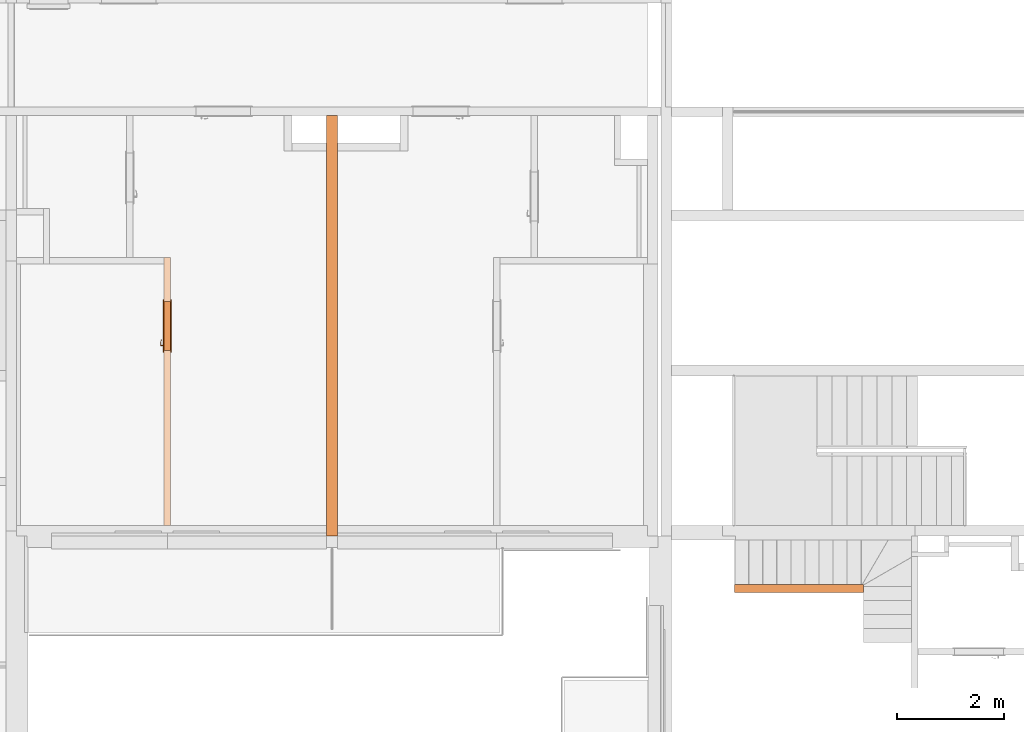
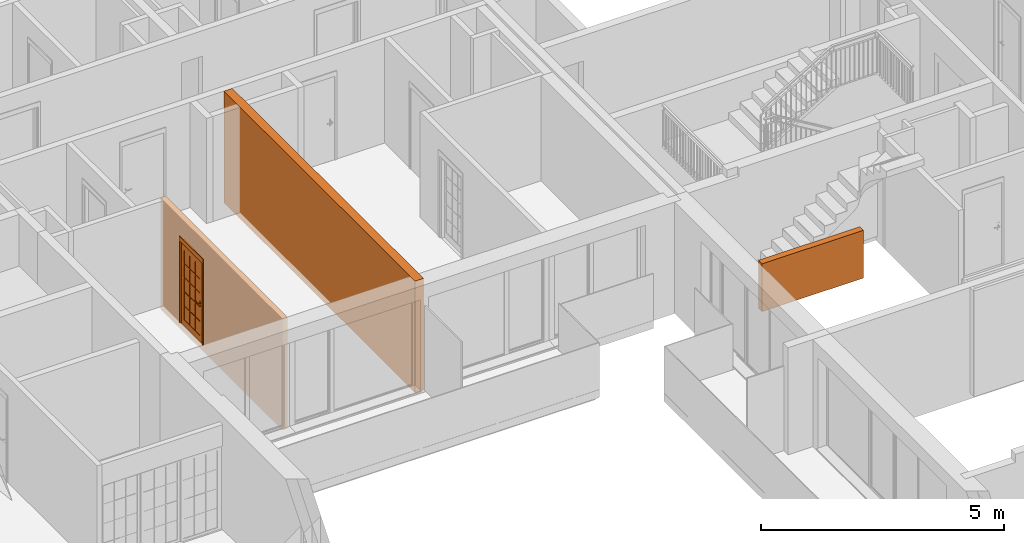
# One storey, part 53 of 61: 3 proxies, 1 opening, plus 1 element that does not belong to this part.
"""IFC2X3 building model written with IfcOpenShell, lengths in millimetres."""

from ifc_helpers import new_model, entity, si_unit, converted_unit, derived_unit, money_unit, direction, frame, origin_with_axes, origin_2d_with_axis, place, context, subcontext, project, spatial, rectangle, extrude, open_shell, faceted_brep, surface_model, material, type_object, element, fill, save


model = new_model("IFC2X3")

# Units and contexts
model_context = context("Model", 3, precision=0.01, world=origin_with_axes(), true_north=direction((0.34421633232, 0.938890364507)))
body_context = subcontext(model_context, "Body", "Model", "MODEL_VIEW")
ifc_project = project(units=[si_unit("LENGTHUNIT", "METRE", prefix="MILLI"), si_unit("AREAUNIT", "SQUARE_METRE"), si_unit("VOLUMEUNIT", "CUBIC_METRE"), converted_unit("PLANEANGLEUNIT", "DEGREE", entity("IfcPlaneAngleMeasure", 0.0174532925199), si_unit("PLANEANGLEUNIT", "RADIAN"), dimensions=[0, 0, 0, 0, 0, 0, 0]), si_unit("SOLIDANGLEUNIT", "STERADIAN"), money_unit("USD"), converted_unit("TIMEUNIT", "Year", entity("IfcTimeMeasure", 31556926.0), si_unit("TIMEUNIT", "SECOND"), dimensions=[0, 0, 1, 0, 0, 0, 0]), si_unit("MASSUNIT", "GRAM", prefix="KILO"), si_unit("THERMODYNAMICTEMPERATUREUNIT", "DEGREE_CELSIUS"), si_unit("LUMINOUSINTENSITYUNIT", "LUMEN"), si_unit("ENERGYUNIT", "JOULE", prefix="MEGA"), derived_unit("THERMALCONDUCTANCEUNIT", [(si_unit("POWERUNIT", "WATT"), 1), (si_unit("LENGTHUNIT", "METRE"), -1), (si_unit("THERMODYNAMICTEMPERATUREUNIT", "KELVIN"), -1)]), derived_unit("SPECIFICHEATCAPACITYUNIT", [(si_unit("ENERGYUNIT", "JOULE"), 1), (si_unit("MASSUNIT", "GRAM", prefix="KILO"), -1), (si_unit("THERMODYNAMICTEMPERATUREUNIT", "KELVIN"), -1)]), derived_unit("MASSDENSITYUNIT", [(si_unit("MASSUNIT", "GRAM", prefix="KILO"), 1), (si_unit("VOLUMEUNIT", "CUBIC_METRE"), -1)])], contexts=[model_context])

# Site, building, storey
site_placement = place(None, origin_with_axes())
site = spatial("IfcSite", under=ifc_project, at=site_placement, Name="USTRONIE MORSKIE", CompositionType="ELEMENT")
building_placement = place(site_placement, origin_with_axes())
building = spatial("IfcBuilding", under=site, at=building_placement, Name="Budynek", CompositionType="ELEMENT")
storey_placement = place(building_placement, frame((0.0, 0.0, 13000.0), z_axis=(0.0, 0.0, 1.0), x_axis=(1.0, 0.0, 0.0)))
storey = spatial("IfcBuildingStorey", under=building, at=storey_placement, Name="PIĘTRO 4", CompositionType="ELEMENT", Elevation=13000.0)

# Proxies, opening
ifc_material_1 = material(Name="Bloczki silikatowe")
building_element_proxy_type_1 = type_object("IfcBuildingElementProxyType", Name="Bloczki silikatowe 120", PredefinedType="NOTDEFINED")
proxy_1_placement = place(storey_placement, frame((399237.940269, 731951.199132, -160.0), z_axis=(0.0, 0.0, 1.0), x_axis=(0.0, -1.0, 0.0)))
proxy_1 = element("IfcBuildingElementProxy", 1, at=proxy_1_placement, inside=storey, type_object=building_element_proxy_type_1, material=ifc_material_1, Name="SW-04", context=body_context, shape_type="Brep", body=[
    faceted_brep([(4950.00009633, 60.0, 0.0), (4950.00009633, -60.0, 0.0), (-59.9999999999, -60.0, 0.0), (-59.9999999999, 60.0, 0.0), (4950.00009633, 60.0, 2800.0), (4950.00009633, -60.0, 2800.0), (-59.9999999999, -60.0, 2800.0), (-59.9999999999, 60.0, 2800.0)], [[[0, 1, 2, 3]], [[1, 0, 4, 5]], [[1, 5, 6, 2]], [[7, 3, 2, 6]], [[4, 0, 3, 7]], [[5, 4, 7, 6]]]),
])
opening_placement = place(proxy_1_placement, frame((1220.00038806, 0.0, 160.0), z_axis=(0.0, 0.0, 1.0), x_axis=(1.0, 0.0, 0.0)))
opening = element("IfcOpeningElement", 2, at=opening_placement, cuts=proxy_1, Name="Dw.03", context=body_context, shape_type="SweptSolid", body=[
    extrude(rectangle(XDim=920.0, YDim=2070.0, at=origin_2d_with_axis()), frame((0.0, -120.0, 1035.0), z_axis=(0.0, 1.0, 0.0), x_axis=(-1.0, 0.0, 0.0)), (0.0, 0.0, 1.0), 360.0),
    extrude(rectangle(XDim=994.0, YDim=2177.0, at=origin_2d_with_axis()), frame((0.0, -60.0, 1088.5), z_axis=(0.0, 1.0, 0.0), x_axis=(-1.0, 0.0, 0.0)), (0.0, 0.0, -1.0), 120.0),
    extrude(rectangle(XDim=994.0, YDim=2177.0, at=origin_2d_with_axis()), frame((0.0, 60.0, 1088.5), z_axis=(0.0, -1.0, 0.0), x_axis=(-1.0, 0.0, 0.0)), (0.0, 0.0, -1.0), 120.0),
])
building_element_proxy_type_2 = type_object("IfcBuildingElementProxyType", Name="Drzwi 23", PredefinedType="NOTDEFINED")
proxy_2_placement = place(opening_placement, frame((400.0, 0.0, 0.0), z_axis=(0.0, 0.0, 1.0), x_axis=(-1.0, 0.0, 0.0)))
proxy_2 = element("IfcBuildingElementProxy", 3, at=proxy_2_placement, inside=storey, type_object=building_element_proxy_type_2, Name="Dw.03", context=body_context, shape_type="SurfaceModel", body=[
    faceted_brep([(-60.0000000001, 55.0, 0.0), (-60.0000000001, 60.0, 0.0), (-35.0, 60.0, 0.0), (-35.0, 55.0, 0.0), (-60.0000000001, 55.0, 2070.0), (-60.0000000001, 60.0, 2070.0), (-35.0, 60.0, 2045.0), (-35.0, 55.0, 2045.0)], [[[0, 1, 2, 3]], [[4, 5, 1, 0]], [[1, 5, 6, 2]], [[3, 2, 6, 7]], [[0, 3, 7, 4]], [[7, 6, 5, 4]]]),
    faceted_brep([(860.0, 55.0, 2070.0), (860.0, 60.0, 2070.0), (835.0, 60.0, 2045.0), (835.0, 55.0, 2045.0), (860.0, 55.0, 0.0), (860.0, 60.0, 0.0), (835.0, 60.0, 0.0), (835.0, 55.0, 0.0)], [[[0, 1, 2, 3]], [[4, 5, 1, 0]], [[1, 5, 6, 2]], [[3, 2, 6, 7]], [[0, 3, 7, 4]], [[7, 6, 5, 4]]]),
    faceted_brep([(-35.0, 55.0, 2045.0), (-35.0, 60.0, 2045.0), (835.0, 60.0, 2045.0), (835.0, 55.0, 2045.0), (-60.0000000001, 55.0, 2070.0), (-60.0000000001, 60.0, 2070.0), (860.0, 60.0, 2070.0), (860.0, 55.0, 2070.0)], [[[0, 1, 2, 3]], [[4, 5, 1, 0]], [[1, 5, 6, 2]], [[3, 2, 6, 7]], [[0, 3, 7, 4]], [[7, 6, 5, 4]]]),
    faceted_brep([(-97.0, 79.0, 0.0), (-47.0, 79.0, 0.0), (-47.0, 60.0, 0.0), (-97.0, 60.0, 0.0), (-97.0, 79.0, 2177.0), (-47.0, 79.0, 2057.0), (-47.0, 60.0, 2057.0), (-97.0, 60.0, 2177.0)], [[[0, 1, 2, 3]], [[0, 4, 5, 1]], [[1, 5, 6, 2]], [[3, 2, 6, 7]], [[4, 0, 3, 7]], [[5, 4, 7, 6]]]),
    faceted_brep([(897.0, 79.0, 2177.0), (847.0, 79.0, 2057.0), (847.0, 60.0, 2057.0), (897.0, 60.0, 2177.0), (897.0, 79.0, 0.0), (847.0, 79.0, 0.0), (847.0, 60.0, 0.0), (897.0, 60.0, 0.0)], [[[0, 1, 2, 3]], [[0, 4, 5, 1]], [[1, 5, 6, 2]], [[3, 2, 6, 7]], [[4, 0, 3, 7]], [[5, 4, 7, 6]]]),
    faceted_brep([(-97.0, 79.0, 2177.0), (-47.0, 79.0, 2057.0), (-47.0, 60.0, 2057.0), (-97.0, 60.0, 2177.0), (897.0, 79.0, 2177.0), (847.0, 79.0, 2057.0), (847.0, 60.0, 2057.0), (897.0, 60.0, 2177.0)], [[[0, 1, 2, 3]], [[0, 4, 5, 1]], [[1, 5, 6, 2]], [[3, 2, 6, 7]], [[4, 0, 3, 7]], [[5, 4, 7, 6]]]),
    faceted_brep([(-97.0, -79.0, 0.0), (-97.0, -60.0, 0.0), (-47.0, -60.0, 0.0), (-47.0, -79.0, 0.0), (-97.0, -79.0, 2177.0), (-97.0, -60.0, 2177.0), (-47.0, -60.0, 2057.0), (-47.0, -79.0, 2057.0)], [[[0, 1, 2, 3]], [[4, 5, 1, 0]], [[1, 5, 6, 2]], [[3, 2, 6, 7]], [[0, 3, 7, 4]], [[7, 6, 5, 4]]]),
    faceted_brep([(897.0, -79.0, 2177.0), (897.0, -60.0, 2177.0), (847.0, -60.0, 2057.0), (847.0, -79.0, 2057.0), (897.0, -79.0, 0.0), (897.0, -60.0, 0.0), (847.0, -60.0, 0.0), (847.0, -79.0, 0.0)], [[[0, 1, 2, 3]], [[4, 5, 1, 0]], [[1, 5, 6, 2]], [[3, 2, 6, 7]], [[0, 3, 7, 4]], [[7, 6, 5, 4]]]),
    faceted_brep([(-97.0, -79.0, 2177.0), (-97.0, -60.0, 2177.0), (-47.0, -60.0, 2057.0), (-47.0, -79.0, 2057.0), (897.0, -79.0, 2177.0), (897.0, -60.0, 2177.0), (847.0, -60.0, 2057.0), (847.0, -79.0, 2057.0)], [[[0, 1, 2, 3]], [[4, 5, 1, 0]], [[1, 5, 6, 2]], [[3, 2, 6, 7]], [[0, 3, 7, 4]], [[7, 6, 5, 4]]]),
    faceted_brep([(0.0, 15.0, 0.0), (0.0, 15.0, 2000.0), (0.0, -60.0, 2000.0), (0.0, -60.0, 0.0), (-12.0000000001, 15.0, 2000.0), (-12.0000000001, 15.0, 0.0), (-12.0000000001, 55.0, 2000.0), (-60.0000000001, 55.0, 2000.0), (-60.0000000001, -60.0, 2000.0), (-60.0000000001, -60.0, 0.0), (-60.0000000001, 55.0, 0.0), (-12.0000000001, 55.0, 0.0)], [[[0, 1, 2, 3]], [[4, 1, 0, 5]], [[4, 6, 7, 8, 2, 1]], [[3, 2, 8, 9]], [[5, 0, 3, 9, 10, 11]], [[6, 4, 5, 11]], [[6, 11, 10, 7]], [[10, 9, 8, 7]]]),
    faceted_brep([(812.0, 15.0, 2000.0), (800.0, 15.0, 2000.0), (800.0, -60.0, 2000.0), (860.0, -60.0, 2000.0), (860.0, 55.0, 2000.0), (812.0, 55.0, 2000.0), (812.0, 15.0, 0.0), (800.0, 15.0, 0.0), (800.0, -60.0, 0.0), (860.0, -60.0, 0.0), (860.0, 55.0, 0.0), (812.0, 55.0, 0.0)], [[[0, 1, 2, 3, 4, 5]], [[1, 0, 6, 7]], [[1, 7, 8, 2]], [[3, 2, 8, 9]], [[4, 3, 9, 10]], [[11, 5, 4, 10]], [[0, 5, 11, 6]], [[6, 11, 10, 9, 8, 7]]]),
    faceted_brep([(-12.0000000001, 55.0, 2012.0), (-12.0000000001, 55.0, 2000.0), (-60.0000000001, 55.0, 2000.0), (-60.0000000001, 55.0, 2070.0), (860.0, 55.0, 2070.0), (860.0, 55.0, 2000.0), (812.0, 55.0, 2000.0), (812.0, 55.0, 2012.0), (-12.0000000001, 15.0, 2012.0), (-12.0000000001, 15.0, 2000.0), (0.0, 15.0, 2000.0), (0.0, -60.0, 2000.0), (-60.0000000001, -60.0, 2000.0), (-60.0000000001, -60.0, 2070.0), (860.0, -60.0, 2070.0), (860.0, -60.0, 2000.0), (812.0, 15.0, 2000.0), (800.0, -60.0, 2000.0), (800.0, 15.0, 2000.0), (812.0, 15.0, 2012.0)], [[[0, 1, 2, 3, 4, 5, 6, 7]], [[1, 0, 8, 9]], [[9, 10, 11, 12, 2, 1]], [[2, 12, 13, 3]], [[3, 13, 14, 4]], [[4, 14, 15, 5]], [[16, 6, 5, 15, 17, 18]], [[7, 6, 16, 19]], [[0, 7, 19, 8]], [[16, 18, 10, 9, 8, 19]], [[10, 18, 17, 11]], [[17, 15, 14, 13, 12, 11]]]),
    faceted_brep([(9.5, 15.0, 1060.0), (9.5, 12.0, 1060.0), (66.5, 12.0, 1060.0), (66.5, 15.0, 1060.0), (9.5, 15.0, 870.0), (9.5, 12.0, 870.0), (66.5, 12.0, 870.0), (66.5, 15.0, 870.0)], [[[0, 1, 2, 3]], [[4, 5, 1, 0]], [[1, 5, 6, 2]], [[3, 2, 6, 7]], [[0, 3, 7, 4]], [[7, 6, 5, 4]]]),
    faceted_brep([(38.0, -49.0, 990.0), (38.0, -56.0, 990.0), (33.0, -56.0, 991.339745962), (33.0, -49.0, 991.339745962), (63.0, -49.0, 990.0), (63.0, -56.0, 990.0), (63.0, -56.0, 1010.0), (38.0, -56.0, 1010.0), (33.0, -56.0, 1008.66025404), (29.3397459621, -56.0, 1005.0), (28.0, -56.0, 1000.0), (29.3397459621, -56.0, 995.0), (29.3397459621, -49.0, 995.0), (28.0, -49.0, 1000.0), (29.3397459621, -49.0, 1005.0), (33.0, -49.0, 1008.66025404), (38.0, -49.0, 1010.0), (63.0, -49.0, 1010.0)], [[[0, 1, 2, 3]], [[4, 5, 1, 0]], [[1, 5, 6, 7, 8, 9, 10, 11, 2]], [[3, 2, 11, 12]], [[0, 3, 12, 13, 14, 15, 16, 17, 4]], [[17, 6, 5, 4]], [[16, 7, 6, 17]], [[15, 8, 7, 16]], [[14, 9, 8, 15]], [[13, 10, 9, 14]], [[12, 11, 10, 13]]]),
    surface_model("IfcShellBasedSurfaceModel", [(63.0, -49.0, 1010.0), (76.4039094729, -56.0, 1009.60730092), (76.0982828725, -49.0, 1009.60730092), (63.0, -56.0, 1010.0), (103.109716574, -53.6635446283, 1008.82190275), (76.0982828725, -49.0, 990.392699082), (63.0, -49.0, 990.0), (63.0, -56.0, 990.0), (76.4039094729, -56.0, 990.392699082), (103.109716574, -53.6635446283, 991.178097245), (102.195162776, -46.716818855, 1008.82190275), (102.195162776, -46.716818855, 991.178097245), (129.510264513, -49.0084157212, 991.963495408), (129.510264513, -49.0084157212, 1008.03650459), (127.993743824, -42.1678329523, 1008.03650459), (127.993743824, -42.1678329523, 991.963495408), (155.40462918, -42.0700416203, 992.748893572), (155.40462918, -42.0700416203, 1007.25110643), (153.297683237, -35.3876628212, 1007.25110643), (153.297683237, -35.3876628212, 992.748893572), (163.461204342, -39.1376880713, 993.0), (163.461204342, -39.1376880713, 1007.0), (161.170557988, -32.5221707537, 1007.0), (161.170557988, -32.5221707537, 993.0)], [open_shell([[[0, 1, 2]], [[0, 3, 1]], [[2, 1, 4]], [[0, 2, 5, 6]], [[3, 7, 8, 1]], [[1, 8, 9, 4]], [[2, 4, 10]], [[2, 10, 11, 5]], [[5, 7, 6]], [[5, 8, 7]], [[11, 9, 8]], [[4, 9, 12, 13]], [[10, 4, 13]], [[10, 14, 15, 11]], [[11, 8, 5]], [[15, 9, 11]], [[15, 12, 9]], [[13, 12, 16, 17]], [[10, 13, 14]], [[14, 18, 19, 15]], [[19, 12, 15]], [[19, 16, 12]], [[17, 16, 20, 21]], [[14, 13, 17]], [[14, 17, 18]], [[18, 22, 23, 19]], [[23, 16, 19]], [[23, 20, 16]], [[22, 21, 20, 23]], [[18, 17, 21]], [[18, 21, 22]]])]),
    faceted_brep([(48.3923048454, 2.00000000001, 994.0), (49.2583302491, 12.0, 993.5), (50.9999999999, 12.0, 1000.0), (50.0, 2.00000000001, 1000.0), (44.0, 2.00000000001, 989.607695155), (44.5, 12.0, 988.741669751), (38.0, 12.0, 987.0), (31.4999999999, 12.0, 988.741669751), (26.7416697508, 12.0, 993.5), (25.0, 12.0, 1000.0), (26.7416697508, 12.0, 1006.5), (31.4999999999, 12.0, 1011.25833025), (38.0, 12.0, 1013.0), (44.5, 12.0, 1011.25833025), (49.2583302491, 12.0, 1006.5), (48.3923048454, 2.00000000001, 1006.0), (44.0, 2.00000000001, 1010.39230485), (38.0, 2.00000000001, 1012.0), (31.9999999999, 2.00000000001, 1010.39230485), (27.6076951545, 2.00000000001, 1006.0), (26.0, 2.00000000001, 1000.0), (27.6076951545, 2.00000000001, 994.0), (31.9999999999, 2.00000000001, 989.607695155), (38.0, 2.00000000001, 988.0)], [[[0, 1, 2, 3]], [[4, 5, 1, 0]], [[2, 1, 5, 6, 7, 8, 9, 10, 11, 12, 13, 14]], [[3, 2, 14, 15]], [[3, 15, 16, 17, 18, 19, 20, 21, 22, 23, 4, 0]], [[23, 6, 5, 4]], [[22, 7, 6, 23]], [[21, 8, 7, 22]], [[20, 9, 8, 21]], [[19, 10, 9, 20]], [[18, 11, 10, 19]], [[17, 12, 11, 18]], [[16, 13, 12, 17]], [[15, 14, 13, 16]]]),
    faceted_brep([(55.3205080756, 7.99999999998, 895.0), (57.0525588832, 12.0, 894.0), (59.9999999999, 12.0, 905.0), (58.0, 7.99999999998, 905.0), (48.0, 7.99999999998, 887.679491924), (49.0, 12.0, 885.947441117), (38.0, 12.0, 883.0), (26.9999999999, 12.0, 885.947441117), (18.9474411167, 12.0, 894.0), (16.0, 12.0, 905.0), (18.9474411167, 12.0, 916.0), (26.9999999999, 12.0, 924.052558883), (38.0, 12.0, 927.0), (49.0, 12.0, 924.052558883), (57.0525588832, 12.0, 916.0), (55.3205080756, 7.99999999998, 915.0), (48.0, 7.99999999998, 922.320508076), (38.0, 7.99999999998, 925.0), (28.0, 7.99999999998, 922.320508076), (20.6794919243, 7.99999999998, 915.0), (18.0, 7.99999999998, 905.0), (20.6794919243, 7.99999999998, 895.0), (28.0, 7.99999999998, 887.679491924), (38.0, 7.99999999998, 885.0)], [[[0, 1, 2, 3]], [[4, 5, 1, 0]], [[2, 1, 5, 6, 7, 8, 9, 10, 11, 12, 13, 14]], [[3, 2, 14, 15]], [[3, 15, 16, 17, 18, 19, 20, 21, 22, 23, 4, 0]], [[23, 6, 5, 4]], [[22, 7, 6, 23]], [[21, 8, 7, 22]], [[20, 9, 8, 21]], [[19, 10, 9, 20]], [[18, 11, 10, 19]], [[17, 12, 11, 18]], [[16, 13, 12, 17]], [[15, 14, 13, 16]]]),
    faceted_brep([(42.9497474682, 6.00000000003, 909.050252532), (43.6568542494, 7.99999999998, 908.343145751), (45.9999999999, 7.99999999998, 914.0), (45.0, 6.00000000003, 914.0), (38.0, 6.00000000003, 907.0), (38.0, 7.99999999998, 906.0), (32.3431457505, 7.99999999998, 908.343145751), (30.0, 7.99999999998, 914.0), (32.3431457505, 7.99999999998, 919.656854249), (38.0, 7.99999999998, 922.0), (43.6568542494, 7.99999999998, 919.656854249), (42.9497474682, 6.00000000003, 918.949747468), (38.0, 6.00000000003, 921.0), (33.0502525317, 6.00000000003, 918.949747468), (30.9999999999, 6.00000000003, 914.0), (33.0502525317, 6.00000000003, 909.050252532)], [[[0, 1, 2, 3]], [[4, 5, 1, 0]], [[2, 1, 5, 6, 7, 8, 9, 10]], [[3, 2, 10, 11]], [[3, 11, 12, 13, 14, 15, 4, 0]], [[15, 6, 5, 4]], [[14, 7, 6, 15]], [[13, 8, 7, 14]], [[12, 9, 8, 13]], [[11, 10, 9, 12]]]),
    faceted_brep([(38.0, 2.00000000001, 1010.0), (38.0, -49.0, 1010.0), (43.0, -49.0, 1008.66025404), (43.0, 2.00000000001, 1008.66025404), (33.0, 2.00000000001, 1008.66025404), (33.0, -49.0, 1008.66025404), (29.3397459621, -49.0, 1005.0), (28.0, -49.0, 1000.0), (29.3397459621, -49.0, 995.0), (33.0, -49.0, 991.339745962), (38.0, -49.0, 990.0), (43.0, -49.0, 991.339745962), (46.6602540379, -49.0, 995.0), (48.0, -49.0, 1000.0), (46.6602540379, -49.0, 1005.0), (46.6602540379, 2.00000000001, 1005.0), (48.0, 2.00000000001, 1000.0), (46.6602540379, 2.00000000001, 995.0), (43.0, 2.00000000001, 991.339745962), (38.0, 2.00000000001, 990.0), (33.0, 2.00000000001, 991.339745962), (29.3397459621, 2.00000000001, 995.0), (28.0, 2.00000000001, 1000.0), (29.3397459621, 2.00000000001, 1005.0)], [[[0, 1, 2, 3]], [[4, 5, 1, 0]], [[1, 5, 6, 7, 8, 9, 10, 11, 12, 13, 14, 2]], [[3, 2, 14, 15]], [[0, 3, 15, 16, 17, 18, 19, 20, 21, 22, 23, 4]], [[23, 6, 5, 4]], [[22, 7, 6, 23]], [[21, 8, 7, 22]], [[20, 9, 8, 21]], [[19, 10, 9, 20]], [[18, 11, 10, 19]], [[17, 12, 11, 18]], [[16, 13, 12, 17]], [[15, 14, 13, 16]]]),
    faceted_brep([(9.5, 55.0, 1060.0), (66.5, 55.0, 1060.0), (66.5, 58.0, 1060.0), (9.5, 58.0, 1060.0), (9.5, 55.0, 870.0), (66.5, 55.0, 870.0), (66.5, 58.0, 870.0), (9.5, 58.0, 870.0)], [[[0, 1, 2, 3]], [[0, 4, 5, 1]], [[1, 5, 6, 2]], [[3, 2, 6, 7]], [[4, 0, 3, 7]], [[5, 4, 7, 6]]]),
    faceted_brep([(38.0, 119.0, 990.0), (33.0, 119.0, 991.339745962), (33.0, 126.0, 991.339745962), (38.0, 126.0, 990.0), (63.0, 119.0, 990.0), (63.0, 119.0, 1010.0), (38.0, 119.0, 1010.0), (33.0, 119.0, 1008.66025404), (29.3397459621, 119.0, 1005.0), (28.0, 119.0, 1000.0), (29.3397459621, 119.0, 995.0), (29.3397459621, 126.0, 995.0), (28.0, 126.0, 1000.0), (29.3397459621, 126.0, 1005.0), (33.0, 126.0, 1008.66025404), (38.0, 126.0, 1010.0), (63.0, 126.0, 1010.0), (63.0, 126.0, 990.0)], [[[0, 1, 2, 3]], [[0, 4, 5, 6, 7, 8, 9, 10, 1]], [[1, 10, 11, 2]], [[3, 2, 11, 12, 13, 14, 15, 16, 17]], [[4, 0, 3, 17]], [[5, 4, 17, 16]], [[6, 5, 16, 15]], [[7, 6, 15, 14]], [[8, 7, 14, 13]], [[9, 8, 13, 12]], [[10, 9, 12, 11]]]),
    surface_model("IfcShellBasedSurfaceModel", [(63.0, 119.0, 1010.0), (76.0982828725, 119.0, 1009.60730092), (76.4039094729, 126.0, 1009.60730092), (63.0, 119.0, 990.0), (76.0982828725, 119.0, 990.392699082), (103.109716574, 123.663544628, 1008.82190275), (63.0, 126.0, 1010.0), (63.0, 126.0, 990.0), (102.195162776, 116.716818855, 991.178097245), (102.195162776, 116.716818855, 1008.82190275), (103.109716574, 123.663544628, 991.178097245), (76.4039094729, 126.0, 990.392699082), (127.993743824, 112.167832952, 991.963495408), (127.993743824, 112.167832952, 1008.03650459), (129.510264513, 119.008415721, 1008.03650459), (129.510264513, 119.008415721, 991.963495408), (153.297683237, 105.387662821, 992.748893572), (153.297683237, 105.387662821, 1007.25110643), (155.40462918, 112.07004162, 1007.25110643), (155.40462918, 112.07004162, 992.748893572), (161.170557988, 102.522170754, 993.0), (161.170557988, 102.522170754, 1007.0), (163.461204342, 109.137688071, 1007.0), (163.461204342, 109.137688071, 993.0)], [open_shell([[[0, 1, 2]], [[0, 3, 4, 1]], [[1, 5, 2]], [[0, 2, 6]], [[4, 3, 7]], [[1, 4, 8, 9]], [[1, 9, 5]], [[2, 5, 10, 11]], [[6, 2, 11, 7]], [[4, 7, 11]], [[8, 4, 11]], [[9, 8, 12, 13]], [[9, 14, 5]], [[5, 14, 15, 10]], [[8, 11, 10]], [[12, 8, 10]], [[13, 12, 16, 17]], [[9, 13, 14]], [[14, 18, 19, 15]], [[12, 10, 15]], [[16, 12, 15]], [[17, 16, 20, 21]], [[13, 17, 18]], [[13, 18, 14]], [[18, 22, 23, 19]], [[16, 15, 19]], [[20, 16, 19]], [[21, 20, 23, 22]], [[17, 21, 22]], [[17, 22, 18]], [[20, 19, 23]]])]),
    faceted_brep([(48.3923048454, 68.0, 994.0), (50.0, 68.0, 1000.0), (50.9999999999, 58.0, 1000.0), (49.2583302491, 58.0, 993.5), (44.0, 68.0, 989.607695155), (38.0, 68.0, 988.0), (31.9999999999, 68.0, 989.607695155), (27.6076951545, 68.0, 994.0), (26.0, 68.0, 1000.0), (27.6076951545, 68.0, 1006.0), (31.9999999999, 68.0, 1010.39230485), (38.0, 68.0, 1012.0), (44.0, 68.0, 1010.39230485), (48.3923048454, 68.0, 1006.0), (49.2583302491, 58.0, 1006.5), (44.5, 58.0, 1011.25833025), (38.0, 58.0, 1013.0), (31.4999999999, 58.0, 1011.25833025), (26.7416697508, 58.0, 1006.5), (25.0, 58.0, 1000.0), (26.7416697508, 58.0, 993.5), (31.4999999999, 58.0, 988.741669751), (38.0, 58.0, 987.0), (44.5, 58.0, 988.741669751)], [[[0, 1, 2, 3]], [[1, 0, 4, 5, 6, 7, 8, 9, 10, 11, 12, 13]], [[1, 13, 14, 2]], [[2, 14, 15, 16, 17, 18, 19, 20, 21, 22, 23, 3]], [[4, 0, 3, 23]], [[5, 4, 23, 22]], [[6, 5, 22, 21]], [[7, 6, 21, 20]], [[8, 7, 20, 19]], [[9, 8, 19, 18]], [[10, 9, 18, 17]], [[11, 10, 17, 16]], [[12, 11, 16, 15]], [[13, 12, 15, 14]]]),
    faceted_brep([(55.3205080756, 62.0, 895.0), (58.0, 62.0, 905.0), (59.9999999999, 58.0, 905.0), (57.0525588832, 58.0, 894.0), (48.0, 62.0, 887.679491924), (38.0, 62.0, 885.0), (28.0, 62.0, 887.679491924), (20.6794919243, 62.0, 895.0), (18.0, 62.0, 905.0), (20.6794919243, 62.0, 915.0), (28.0, 62.0, 922.320508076), (38.0, 62.0, 925.0), (48.0, 62.0, 922.320508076), (55.3205080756, 62.0, 915.0), (57.0525588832, 58.0, 916.0), (49.0, 58.0, 924.052558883), (38.0, 58.0, 927.0), (26.9999999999, 58.0, 924.052558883), (18.9474411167, 58.0, 916.0), (16.0, 58.0, 905.0), (18.9474411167, 58.0, 894.0), (26.9999999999, 58.0, 885.947441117), (38.0, 58.0, 883.0), (49.0, 58.0, 885.947441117)], [[[0, 1, 2, 3]], [[1, 0, 4, 5, 6, 7, 8, 9, 10, 11, 12, 13]], [[1, 13, 14, 2]], [[2, 14, 15, 16, 17, 18, 19, 20, 21, 22, 23, 3]], [[4, 0, 3, 23]], [[5, 4, 23, 22]], [[6, 5, 22, 21]], [[7, 6, 21, 20]], [[8, 7, 20, 19]], [[9, 8, 19, 18]], [[10, 9, 18, 17]], [[11, 10, 17, 16]], [[12, 11, 16, 15]], [[13, 12, 15, 14]]]),
    faceted_brep([(42.9497474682, 64.0, 909.050252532), (45.0, 64.0, 914.0), (45.9999999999, 62.0, 914.0), (43.6568542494, 62.0, 908.343145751), (38.0, 64.0, 907.0), (33.0502525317, 64.0, 909.050252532), (30.9999999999, 64.0, 914.0), (33.0502525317, 64.0, 918.949747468), (38.0, 64.0, 921.0), (42.9497474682, 64.0, 918.949747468), (43.6568542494, 62.0, 919.656854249), (38.0, 62.0, 922.0), (32.3431457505, 62.0, 919.656854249), (30.0, 62.0, 914.0), (32.3431457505, 62.0, 908.343145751), (38.0, 62.0, 906.0)], [[[0, 1, 2, 3]], [[1, 0, 4, 5, 6, 7, 8, 9]], [[1, 9, 10, 2]], [[2, 10, 11, 12, 13, 14, 15, 3]], [[4, 0, 3, 15]], [[5, 4, 15, 14]], [[6, 5, 14, 13]], [[7, 6, 13, 12]], [[8, 7, 12, 11]], [[9, 8, 11, 10]]]),
    faceted_brep([(38.0, 68.0, 1010.0), (43.0, 68.0, 1008.66025404), (43.0, 119.0, 1008.66025404), (38.0, 119.0, 1010.0), (33.0, 68.0, 1008.66025404), (29.3397459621, 68.0, 1005.0), (28.0, 68.0, 1000.0), (29.3397459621, 68.0, 995.0), (33.0, 68.0, 991.339745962), (38.0, 68.0, 990.0), (43.0, 68.0, 991.339745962), (46.6602540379, 68.0, 995.0), (48.0, 68.0, 1000.0), (46.6602540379, 68.0, 1005.0), (46.6602540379, 119.0, 1005.0), (48.0, 119.0, 1000.0), (46.6602540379, 119.0, 995.0), (43.0, 119.0, 991.339745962), (38.0, 119.0, 990.0), (33.0, 119.0, 991.339745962), (29.3397459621, 119.0, 995.0), (28.0, 119.0, 1000.0), (29.3397459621, 119.0, 1005.0), (33.0, 119.0, 1008.66025404)], [[[0, 1, 2, 3]], [[0, 4, 5, 6, 7, 8, 9, 10, 11, 12, 13, 1]], [[1, 13, 14, 2]], [[3, 2, 14, 15, 16, 17, 18, 19, 20, 21, 22, 23]], [[4, 0, 3, 23]], [[5, 4, 23, 22]], [[6, 5, 22, 21]], [[7, 6, 21, 20]], [[8, 7, 20, 19]], [[9, 8, 19, 18]], [[10, 9, 18, 17]], [[11, 10, 17, 16]], [[12, 11, 16, 15]], [[13, 12, 15, 14]]]),
    faceted_brep([(812.0, 55.0, 0.0), (812.0, 15.0, 0.0), (732.0, 15.0, 150.0), (732.0, 55.0, 150.0), (812.0, 55.0, 2012.0), (812.0, 15.0, 2012.0), (732.0, 15.0, 1902.0), (732.0, 55.0, 1902.0)], [[[0, 1, 2, 3]], [[4, 5, 1, 0]], [[1, 5, 6, 2]], [[3, 2, 6, 7]], [[0, 3, 7, 4]], [[7, 6, 5, 4]]]),
    faceted_brep([(-12.0000000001, 55.0, 0.0), (-12.0000000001, 15.0, 0.0), (-12.0000000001, 15.0, 2012.0), (-12.0000000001, 55.0, 2012.0), (68.0, 55.0, 150.0), (68.0, 15.0, 150.0), (68.0, 15.0, 1902.0), (68.0, 55.0, 1902.0)], [[[0, 1, 2, 3]], [[4, 5, 1, 0]], [[1, 5, 6, 2]], [[3, 2, 6, 7]], [[0, 3, 7, 4]], [[7, 6, 5, 4]]]),
    faceted_brep([(812.0, 55.0, 0.0), (812.0, 15.0, 0.0), (-12.0000000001, 15.0, 0.0), (-12.0000000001, 55.0, 0.0), (732.0, 55.0, 150.0), (732.0, 15.0, 150.0), (68.0, 15.0, 150.0), (68.0, 55.0, 150.0)], [[[0, 1, 2, 3]], [[4, 5, 1, 0]], [[1, 5, 6, 2]], [[3, 2, 6, 7]], [[0, 3, 7, 4]], [[7, 6, 5, 4]]]),
    faceted_brep([(812.0, 55.0, 2012.0), (812.0, 15.0, 2012.0), (732.0, 15.0, 1902.0), (732.0, 55.0, 1902.0), (-12.0000000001, 55.0, 2012.0), (-12.0000000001, 15.0, 2012.0), (68.0, 15.0, 1902.0), (68.0, 55.0, 1902.0)], [[[0, 1, 2, 3]], [[4, 5, 1, 0]], [[1, 5, 6, 2]], [[3, 2, 6, 7]], [[0, 3, 7, 4]], [[7, 6, 5, 4]]]),
    faceted_brep([(732.0, 41.0, 150.0), (732.0, 29.0, 150.0), (68.0, 29.0, 150.0), (68.0, 41.0, 150.0), (732.0, 41.0, 1902.0), (732.0, 29.0, 1902.0), (68.0, 29.0, 1902.0), (68.0, 41.0, 1902.0)], [[[0, 1, 2, 3]], [[4, 5, 1, 0]], [[1, 5, 6, 2]], [[3, 2, 6, 7]], [[0, 3, 7, 4]], [[7, 6, 5, 4]]]),
    faceted_brep([(504.0, 52.5, 150.0), (504.0, 40.0, 150.0), (504.0, 40.0, 1902.0), (504.0, 52.5, 1902.0), (524.0, 52.5, 150.0), (524.0, 40.0, 150.0), (524.0, 40.0, 1902.0), (524.0, 52.5, 1902.0)], [[[0, 1, 2, 3]], [[4, 5, 1, 0]], [[1, 5, 6, 2]], [[3, 2, 6, 7]], [[0, 3, 7, 4]], [[7, 6, 5, 4]]]),
    faceted_brep([(276.0, 52.5, 150.0), (276.0, 40.0, 150.0), (276.0, 40.0, 1902.0), (276.0, 52.5, 1902.0), (296.0, 52.5, 150.0), (296.0, 40.0, 150.0), (296.0, 40.0, 1902.0), (296.0, 52.5, 1902.0)], [[[0, 1, 2, 3]], [[4, 5, 1, 0]], [[1, 5, 6, 2]], [[3, 2, 6, 7]], [[0, 3, 7, 4]], [[7, 6, 5, 4]]]),
    faceted_brep([(68.0, 52.0, 484.4), (68.0, 40.0, 484.4), (68.0, 40.0, 504.4), (68.0, 52.0, 504.4), (732.0, 52.0, 484.4), (732.0, 40.0, 484.4), (732.0, 40.0, 504.4), (732.0, 52.0, 504.4)], [[[0, 1, 2, 3]], [[4, 5, 1, 0]], [[1, 5, 6, 2]], [[3, 2, 6, 7]], [[0, 3, 7, 4]], [[7, 6, 5, 4]]]),
    faceted_brep([(68.0, 52.0, 838.8), (68.0, 40.0, 838.8), (68.0, 40.0, 858.8), (68.0, 52.0, 858.8), (732.0, 52.0, 838.8), (732.0, 40.0, 838.8), (732.0, 40.0, 858.8), (732.0, 52.0, 858.8)], [[[0, 1, 2, 3]], [[4, 5, 1, 0]], [[1, 5, 6, 2]], [[3, 2, 6, 7]], [[0, 3, 7, 4]], [[7, 6, 5, 4]]]),
    faceted_brep([(68.0, 52.0, 1193.2), (68.0, 40.0, 1193.2), (68.0, 40.0, 1213.2), (68.0, 52.0, 1213.2), (732.0, 52.0, 1193.2), (732.0, 40.0, 1193.2), (732.0, 40.0, 1213.2), (732.0, 52.0, 1213.2)], [[[0, 1, 2, 3]], [[4, 5, 1, 0]], [[1, 5, 6, 2]], [[3, 2, 6, 7]], [[0, 3, 7, 4]], [[7, 6, 5, 4]]]),
    faceted_brep([(68.0, 52.0, 1547.6), (68.0, 40.0, 1547.6), (68.0, 40.0, 1567.6), (68.0, 52.0, 1567.6), (732.0, 52.0, 1547.6), (732.0, 40.0, 1547.6), (732.0, 40.0, 1567.6), (732.0, 52.0, 1567.6)], [[[0, 1, 2, 3]], [[4, 5, 1, 0]], [[1, 5, 6, 2]], [[3, 2, 6, 7]], [[0, 3, 7, 4]], [[7, 6, 5, 4]]]),
    faceted_brep([(504.0, 30.0, 150.0), (504.0, 17.5, 150.0), (504.0, 17.5, 1902.0), (504.0, 30.0, 1902.0), (524.0, 30.0, 150.0), (524.0, 17.5, 150.0), (524.0, 17.5, 1902.0), (524.0, 30.0, 1902.0)], [[[0, 1, 2, 3]], [[4, 5, 1, 0]], [[1, 5, 6, 2]], [[3, 2, 6, 7]], [[0, 3, 7, 4]], [[7, 6, 5, 4]]]),
    faceted_brep([(276.0, 30.0, 150.0), (276.0, 17.5, 150.0), (276.0, 17.5, 1902.0), (276.0, 30.0, 1902.0), (296.0, 30.0, 150.0), (296.0, 17.5, 150.0), (296.0, 17.5, 1902.0), (296.0, 30.0, 1902.0)], [[[0, 1, 2, 3]], [[4, 5, 1, 0]], [[1, 5, 6, 2]], [[3, 2, 6, 7]], [[0, 3, 7, 4]], [[7, 6, 5, 4]]]),
    faceted_brep([(68.0, 30.0, 484.4), (68.0, 18.0, 484.4), (68.0, 18.0, 504.4), (68.0, 30.0, 504.4), (732.0, 30.0, 484.4), (732.0, 18.0, 484.4), (732.0, 18.0, 504.4), (732.0, 30.0, 504.4)], [[[0, 1, 2, 3]], [[4, 5, 1, 0]], [[1, 5, 6, 2]], [[3, 2, 6, 7]], [[0, 3, 7, 4]], [[7, 6, 5, 4]]]),
    faceted_brep([(68.0, 30.0, 838.8), (68.0, 18.0, 838.8), (68.0, 18.0, 858.8), (68.0, 30.0, 858.8), (732.0, 30.0, 838.8), (732.0, 18.0, 838.8), (732.0, 18.0, 858.8), (732.0, 30.0, 858.8)], [[[0, 1, 2, 3]], [[4, 5, 1, 0]], [[1, 5, 6, 2]], [[3, 2, 6, 7]], [[0, 3, 7, 4]], [[7, 6, 5, 4]]]),
    faceted_brep([(68.0, 30.0, 1193.2), (68.0, 18.0, 1193.2), (68.0, 18.0, 1213.2), (68.0, 30.0, 1213.2), (732.0, 30.0, 1193.2), (732.0, 18.0, 1193.2), (732.0, 18.0, 1213.2), (732.0, 30.0, 1213.2)], [[[0, 1, 2, 3]], [[4, 5, 1, 0]], [[1, 5, 6, 2]], [[3, 2, 6, 7]], [[0, 3, 7, 4]], [[7, 6, 5, 4]]]),
    faceted_brep([(68.0, 30.0, 1547.6), (68.0, 18.0, 1547.6), (68.0, 18.0, 1567.6), (68.0, 30.0, 1567.6), (732.0, 30.0, 1547.6), (732.0, 18.0, 1547.6), (732.0, 18.0, 1567.6), (732.0, 30.0, 1567.6)], [[[0, 1, 2, 3]], [[4, 5, 1, 0]], [[1, 5, 6, 2]], [[3, 2, 6, 7]], [[0, 3, 7, 4]], [[7, 6, 5, 4]]]),
])
fill(opening, proxy_2)

# Proxies
building_element_proxy_type_3 = type_object("IfcBuildingElementProxyType", Name="Bloczki silikatowe 150", PredefinedType="NOTDEFINED")
proxy_3_placement = place(storey_placement, frame((412257.920919, 725826.243277, -160.0), z_axis=(0.0, 0.0, 1.0), x_axis=(-1.0, 0.0, 0.0)))
element("IfcBuildingElementProxy", 4, at=proxy_3_placement, inside=storey, type_object=building_element_proxy_type_3, material=ifc_material_1, Name="SW-03", context=body_context, shape_type="Brep", body=[
    faceted_brep([(0.0, 75.0, 0.0), (2410.0, 75.0, 0.0), (2410.0, -75.0, 0.0), (0.0, -75.0, 0.0), (0.0, 75.0, 1200.0), (2410.0, 75.0, 1200.0), (2410.0, -75.0, 1200.0), (0.0, -75.0, 1200.0)], [[[0, 1, 2, 3]], [[4, 5, 1, 0]], [[2, 1, 5, 6]], [[3, 2, 6, 7]], [[4, 0, 3, 7]], [[7, 6, 5, 4]]]),
])
ifc_material_2 = material(Name="Beton konstrukcyjny B25")
building_element_proxy_type_4 = type_object("IfcBuildingElementProxyType", Name="Beton konstrukcyjny B25 200", PredefinedType="NOTDEFINED")
proxy_4_placement = place(storey_placement, frame((402317.920919, 726901.199036, -160.0), z_axis=(0.0, 0.0, 1.0), x_axis=(0.0, 1.0, 0.0)))
element("IfcBuildingElementProxy", 5, at=proxy_4_placement, inside=storey, type_object=building_element_proxy_type_4, material=ifc_material_2, Name="SW-01", context=body_context, shape_type="Brep", body=[
    faceted_brep([(-100.0, -100.0, 2800.0), (7770.00189405, -100.0, 2800.0), (7770.00195604, 100.0, 2800.0), (-100.0, 100.0, 2800.0), (-100.0, -100.0, 0.0), (7770.00189405, -100.0, 0.0), (7770.00195604, 100.0, 0.0), (-100.0, 100.0, 0.0)], [[[0, 1, 2, 3]], [[4, 5, 1, 0]], [[6, 2, 1, 5]], [[3, 2, 6, 7]], [[7, 4, 0, 3]], [[7, 6, 5, 4]]]),
])

save(model, "model.ifc")
